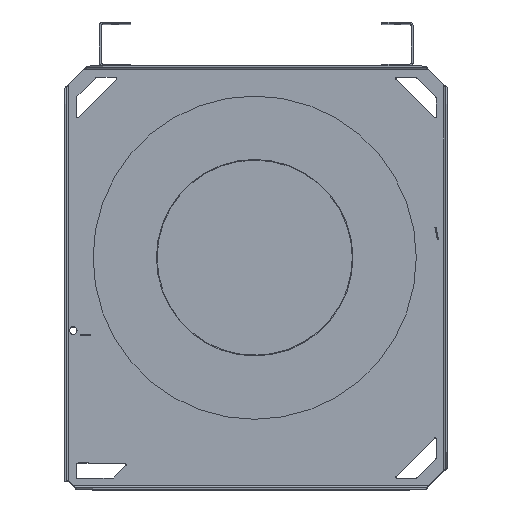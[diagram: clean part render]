
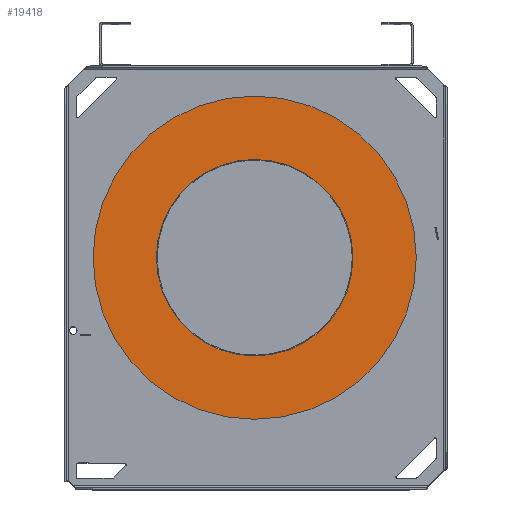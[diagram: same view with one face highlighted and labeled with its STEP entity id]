
A CAD part, top view. The second image highlights one B-rep face of the part: STEP entity #19418.
In plain terms, the highlighted planar face has unit normal (0, 0, 1).
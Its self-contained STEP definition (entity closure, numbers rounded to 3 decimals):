
#19274=CARTESIAN_POINT('',(0.,0.,3.));
#19275=DIRECTION('',(0.,0.,1.));
#19276=DIRECTION('',(1.,0.,0.));
#19277=AXIS2_PLACEMENT_3D('',#19274,#19275,#19276);
#19282=CARTESIAN_POINT('',(0.,0.,3.));
#19283=DIRECTION('',(0.,0.,1.));
#19284=DIRECTION('',(-1.,0.,0.));
#19285=AXIS2_PLACEMENT_3D('',#19282,#19283,#19284);
#19290=CARTESIAN_POINT('',(0.,0.,3.));
#19291=DIRECTION('',(0.,0.,-1.));
#19292=DIRECTION('',(1.,0.,0.));
#19293=AXIS2_PLACEMENT_3D('',#19290,#19291,#19292);
#19298=CARTESIAN_POINT('',(0.,0.,3.));
#19299=DIRECTION('',(0.,0.,-1.));
#19300=DIRECTION('',(-1.,0.,0.));
#19301=AXIS2_PLACEMENT_3D('',#19298,#19299,#19300);
#19328=CARTESIAN_POINT('',(257.5,0.,3.));
#19329=CARTESIAN_POINT('',(-257.5,0.,3.));
#19330=VERTEX_POINT('',#19328);
#19331=VERTEX_POINT('',#19329);
#19332=CARTESIAN_POINT('',(156.5,0.,3.));
#19333=CARTESIAN_POINT('',(-156.5,0.,3.));
#19334=VERTEX_POINT('',#19332);
#19335=VERTEX_POINT('',#19333);
#19403=CARTESIAN_POINT('',(0.,0.,3.));
#19404=DIRECTION('',(0.,0.,1.));
#19405=DIRECTION('',(1.,0.,0.));
#19406=AXIS2_PLACEMENT_3D('',#19403,#19404,#19405);
#19407=PLANE('',#19406);
#19408=ORIENTED_EDGE('',*,*,#19369,.F.);
#19409=ORIENTED_EDGE('',*,*,#19390,.F.);
#19410=EDGE_LOOP('',(#19408,#19409));
#19411=FACE_OUTER_BOUND('',#19410,.F.);
#19413=ORIENTED_EDGE('',*,*,#19412,.F.);
#19415=ORIENTED_EDGE('',*,*,#19414,.F.);
#19416=EDGE_LOOP('',(#19413,#19415));
#19417=FACE_BOUND('',#19416,.F.);
#19278=CIRCLE('',#19277,257.5);
#19286=CIRCLE('',#19285,257.5);
#19294=CIRCLE('',#19293,156.5);
#19302=CIRCLE('',#19301,156.5);
#19369=EDGE_CURVE('',#19330,#19331,#19278,.T.);
#19390=EDGE_CURVE('',#19331,#19330,#19286,.T.);
#19412=EDGE_CURVE('',#19334,#19335,#19294,.T.);
#19414=EDGE_CURVE('',#19335,#19334,#19302,.T.);
#19418=ADVANCED_FACE('',(#19411,#19417),#19407,.T.);
